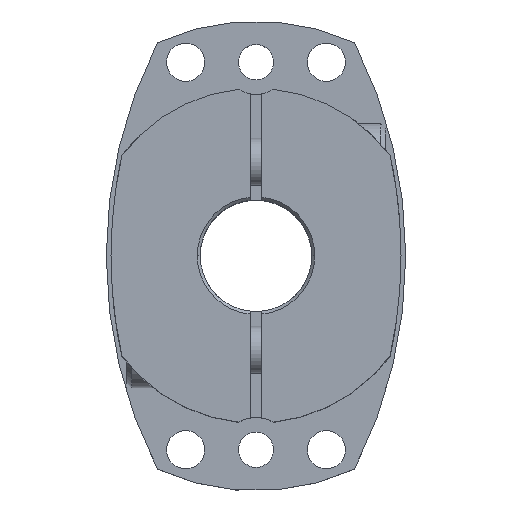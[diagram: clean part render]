
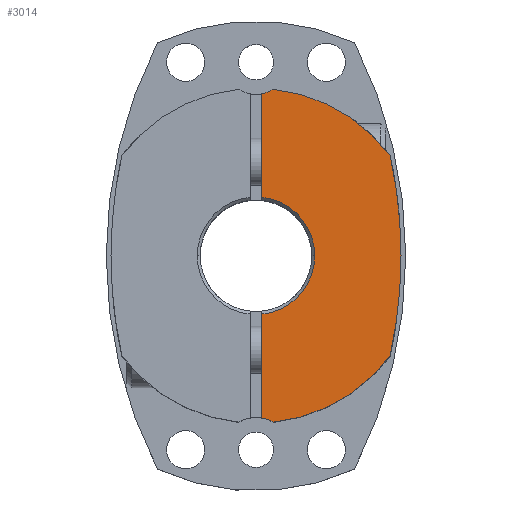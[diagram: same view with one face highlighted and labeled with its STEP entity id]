
A CAD part, top view. The second image highlights one B-rep face of the part: STEP entity #3014.
In plain terms, the highlighted planar face has unit normal (0, 0, 1).
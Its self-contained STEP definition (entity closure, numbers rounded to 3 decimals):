
#373=CARTESIAN_POINT('',(10.,0.,25.5));
#374=VERTEX_POINT('',#373);
#381=CARTESIAN_POINT('',(1.,9.95,25.5));
#382=VERTEX_POINT('',#381);
#383=CARTESIAN_POINT('',(0.,0.,25.5));
#384=DIRECTION('',(0.0,0.0,1.0));
#385=DIRECTION('',(-1.0,0.0,0.0));
#386=AXIS2_PLACEMENT_3D('',#383,#384,#385);
#387=CIRCLE('',#386,10.0);
#388=EDGE_CURVE('',#374,#382,#387,.T.);
#537=CARTESIAN_POINT('',(24.7,0.,25.5));
#538=VERTEX_POINT('',#537);
#658=CARTESIAN_POINT('',(22.845,17.039,25.5));
#659=VERTEX_POINT('',#658);
#666=CARTESIAN_POINT('',(-54.5,0.,25.5));
#667=DIRECTION('',(0.0,0.0,-1.0));
#668=DIRECTION('',(1.0,0.0,0.0));
#669=AXIS2_PLACEMENT_3D('',#666,#667,#668);
#670=CIRCLE('',#669,79.2);
#671=EDGE_CURVE('',#659,#538,#670,.T.);
#2331=CARTESIAN_POINT('',(2.935,28.348,25.5));
#2332=VERTEX_POINT('',#2331);
#2339=CARTESIAN_POINT('',(0.,0.,25.5));
#2340=DIRECTION('',(0.0,0.0,-1.0));
#2341=DIRECTION('',(1.0,0.0,0.0));
#2342=AXIS2_PLACEMENT_3D('',#2339,#2340,#2341);
#2343=CIRCLE('',#2342,28.5);
#2344=EDGE_CURVE('',#2332,#659,#2343,.T.);
#2555=CARTESIAN_POINT('',(22.845,-17.039,25.5));
#2556=VERTEX_POINT('',#2555);
#2557=CARTESIAN_POINT('',(-54.5,0.,25.5));
#2558=DIRECTION('',(0.0,0.0,-1.0));
#2559=DIRECTION('',(1.0,0.0,0.0));
#2560=AXIS2_PLACEMENT_3D('',#2557,#2558,#2559);
#2561=CIRCLE('',#2560,79.2);
#2562=EDGE_CURVE('',#538,#2556,#2561,.T.);
#2679=CARTESIAN_POINT('',(1.,-27.592,25.5));
#2680=VERTEX_POINT('',#2679);
#2696=CARTESIAN_POINT('',(2.935,-28.348,25.5));
#2697=VERTEX_POINT('',#2696);
#2704=CARTESIAN_POINT('',(0.,-33.,25.5));
#2705=DIRECTION('',(0.0,0.0,-1.0));
#2706=DIRECTION('',(1.0,0.0,0.0));
#2707=AXIS2_PLACEMENT_3D('',#2704,#2705,#2706);
#2708=CIRCLE('',#2707,5.5);
#2709=EDGE_CURVE('',#2680,#2697,#2708,.T.);
#2888=CARTESIAN_POINT('',(1.,27.592,25.5));
#2889=VERTEX_POINT('',#2888);
#2896=CARTESIAN_POINT('',(0.,33.,25.5));
#2897=DIRECTION('',(0.0,0.0,-1.0));
#2898=DIRECTION('',(1.0,0.0,0.0));
#2899=AXIS2_PLACEMENT_3D('',#2896,#2897,#2898);
#2900=CIRCLE('',#2899,5.5);
#2901=EDGE_CURVE('',#2332,#2889,#2900,.T.);
#2936=CARTESIAN_POINT('',(1.,-9.95,25.5));
#2937=VERTEX_POINT('',#2936);
#2938=CARTESIAN_POINT('',(1.,-9.95,25.5));
#2939=DIRECTION('',(0.0,-1.0,0.0));
#2940=VECTOR('',#2939,17.642);
#2941=LINE('',#2938,#2940);
#2942=EDGE_CURVE('',#2937,#2680,#2941,.T.);
#2980=CARTESIAN_POINT('',(0.,0.,25.5));
#2981=DIRECTION('',(0.0,0.0,1.0));
#2982=DIRECTION('',(1.0,0.0,0.0));
#2983=AXIS2_PLACEMENT_3D('',#2980,#2981,#2982);
#2984=PLANE('',#2983);
#2985=ORIENTED_EDGE('',*,*,#2709,.T.);
#2986=CARTESIAN_POINT('',(0.,0.,25.5));
#2987=DIRECTION('',(0.0,0.0,-1.0));
#2988=DIRECTION('',(1.0,0.0,0.0));
#2989=AXIS2_PLACEMENT_3D('',#2986,#2987,#2988);
#2990=CIRCLE('',#2989,28.5);
#2991=EDGE_CURVE('',#2556,#2697,#2990,.T.);
#2992=ORIENTED_EDGE('',*,*,#2991,.F.);
#2993=ORIENTED_EDGE('',*,*,#2562,.F.);
#2994=ORIENTED_EDGE('',*,*,#671,.F.);
#2995=ORIENTED_EDGE('',*,*,#2344,.F.);
#2996=ORIENTED_EDGE('',*,*,#2901,.T.);
#2997=CARTESIAN_POINT('',(1.,27.592,25.5));
#2998=DIRECTION('',(0.0,-1.0,0.0));
#2999=VECTOR('',#2998,17.642);
#3000=LINE('',#2997,#2999);
#3001=EDGE_CURVE('',#2889,#382,#3000,.T.);
#3002=ORIENTED_EDGE('',*,*,#3001,.T.);
#3003=ORIENTED_EDGE('',*,*,#388,.F.);
#3004=CARTESIAN_POINT('',(0.,0.,25.5));
#3005=DIRECTION('',(0.0,0.0,1.0));
#3006=DIRECTION('',(-1.0,0.0,0.0));
#3007=AXIS2_PLACEMENT_3D('',#3004,#3005,#3006);
#3008=CIRCLE('',#3007,10.0);
#3009=EDGE_CURVE('',#2937,#374,#3008,.T.);
#3010=ORIENTED_EDGE('',*,*,#3009,.F.);
#3011=ORIENTED_EDGE('',*,*,#2942,.T.);
#3012=EDGE_LOOP('',(#2985,#2992,#2993,#2994,#2995,#2996,#3002,#3003,#3010,#3011));
#3013=FACE_OUTER_BOUND('',#3012,.T.);
#3014=ADVANCED_FACE('',(#3013),#2984,.T.);
